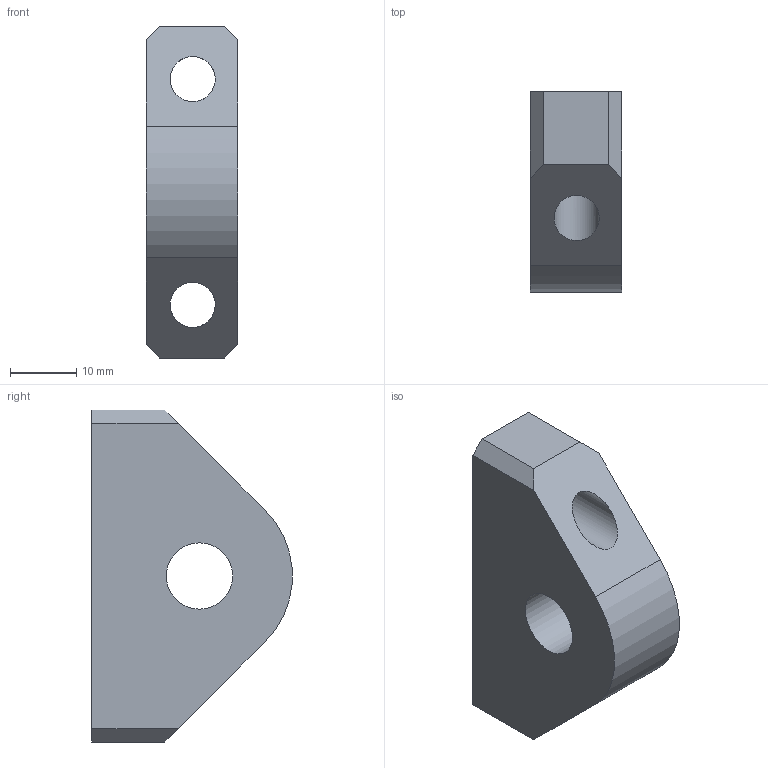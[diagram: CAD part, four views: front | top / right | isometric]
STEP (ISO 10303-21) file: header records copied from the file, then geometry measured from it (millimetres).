
FILE_DESCRIPTION(('STEP AP214'),'1');
FILE_NAME('Clamp strap.stp','2016-10-11T09:15:48',(' '),(' '),'Spatial InterOp 3D',' ',' ');
FILE_SCHEMA(('automotive_design'));
Length unit declared in the file: millimetre
Products named in the file (1): Clamp strap
Bounding box: 13.8 x 30.15 x 50 mm (x, y, z)
Volume: 12466.7 mm3; surface area: 5134.9 mm2
Topology: 1 solids, 1 shells, 19 faces, 47 edges, 32 vertices
Faces by surface type: plane 13, cylinder 6
Full cylindrical faces by diameter (mm): 6.8 x2, 10 x1, 11 x2
Entity records: 706 total; most frequent: DIRECTION 92, CARTESIAN_POINT 90, ORIENTED_EDGE 80, EDGE_CURVE 40, AXIS2_PLACEMENT_3D 32, EDGE_LOOP 32, VERTEX_POINT 30, LINE 28
